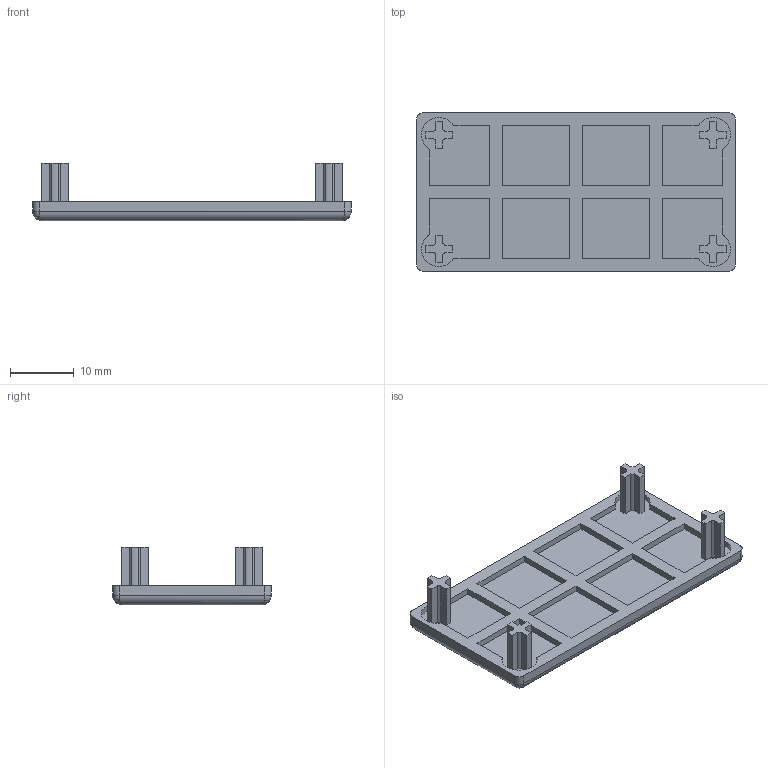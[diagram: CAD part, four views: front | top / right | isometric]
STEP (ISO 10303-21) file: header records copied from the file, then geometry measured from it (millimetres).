
FILE_DESCRIPTION( ( 'STEP AP214' ), '1' );
FILE_NAME( 'C:/Users/Segreteria/Desktop/CA.ADK.X.5025.stp', '2014-07-02T09:04:09', ( ' ' ), ( ' ' ), 'XStep 1.0', ' ', ' ' );
FILE_SCHEMA( ( 'CONFIG_CONTROL_DESIGN) ( )' ) );
Length unit declared in the file: metre
Products named in the file (1): MFI-035
Bounding box: 49.8 x 24.8 x 9 mm (x, y, z)
Volume: 3072.4 mm3; surface area: 3579 mm2
Topology: 1 solids, 1 shells, 130 faces, 340 edges, 220 vertices
Faces by surface type: plane 82, cylinder 44, bspline 4
Entity records: 5242 total; most frequent: CARTESIAN_POINT 961, ORIENTED_EDGE 672, DIRECTION 662, EDGE_CURVE 336, LINE 248, VECTOR 248, VERTEX_POINT 220, AXIS2_PLACEMENT_3D 207
